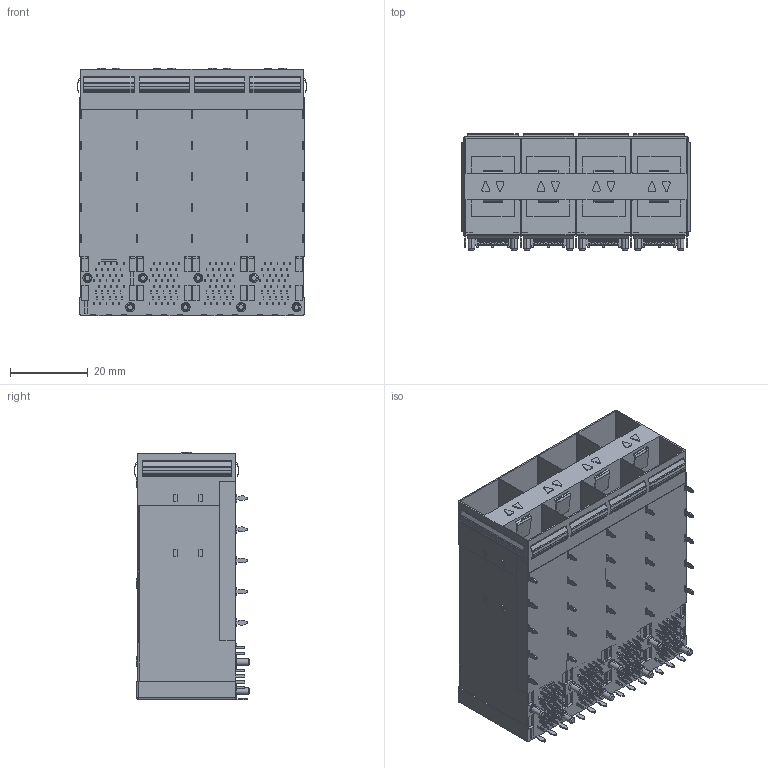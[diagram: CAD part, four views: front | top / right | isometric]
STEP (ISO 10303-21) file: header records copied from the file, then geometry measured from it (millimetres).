
FILE_DESCRIPTION (( 'STEP AP203' ), '1' );
FILE_NAME ('22402_SFP+ 2X4 囀絳嫖翐.STEP', '2024-06-05T00:34:01', ( '' ), ( '' ), 'SwSTEP 2.0', 'SolidWorks 2018', '' );
FILE_SCHEMA (( 'CONFIG_CONTROL_DESIGN' ));
Products named in the file (1): 22402_SFP+ 2X4 囀絳嫖翐
Bounding box: 59.06 x 29.78 x 63.5 mm (x, y, z)
Volume: 46947.5 mm3; surface area: 34608.1 mm2
Topology: 1 solids, 1 shells, 2197 faces, 6099 edges, 4138 vertices
Faces by surface type: plane 1623, cylinder 540, cone 32, sphere 2
Entity records: 70268 total; most frequent: CARTESIAN_POINT 12433, ORIENTED_EDGE 12194, DIRECTION 11609, EDGE_CURVE 6097, VECTOR 4981, LINE 4981, VERTEX_POINT 4138, AXIS2_PLACEMENT_3D 3314
